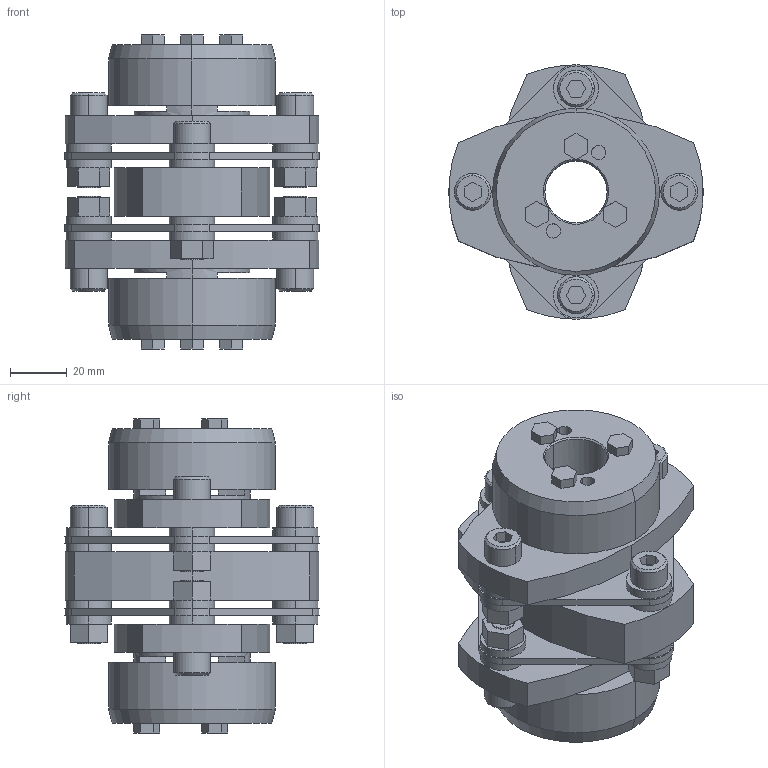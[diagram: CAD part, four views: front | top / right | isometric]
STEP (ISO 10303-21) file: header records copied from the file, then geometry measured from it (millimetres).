
FILE_DESCRIPTION((''),'2;1');
FILE_NAME('LCD-90T7-22×22.stp','2011-09-09T10:31:07',(''),(''),'AutoCAD STEP 2000i','AutoCAD 2000i',', , ');
FILE_SCHEMA(('CONFIG_CONTROL_DESIGN'));
Length unit declared in the file: millimetre
Products named in the file (5): LCD-90T7-19×19; 忣兜1; LC90T7-T019-1; LC90T7-T019; LCD90-ITA
Assembly tree (4 placements, depth 2):
  LCD-90T7-19×19
    忣兜1
    LC90T7-T019-1
    LC90T7-T019
    LCD90-ITA
Bounding box: 90 x 89.94 x 111 mm (x, y, z)
Volume: 272424.3 mm3; surface area: 73888.1 mm2
Topology: 1 solids, 1 shells, 326 faces, 804 edges, 524 vertices
Faces by surface type: plane 182, cylinder 120, cone 24
Entity records: 9875 total; most frequent: DIRECTION 1758, CARTESIAN_POINT 1659, ORIENTED_EDGE 1608, EDGE_CURVE 804, AXIS2_PLACEMENT_3D 623, VERTEX_POINT 524, VECTOR 512, LINE 512
